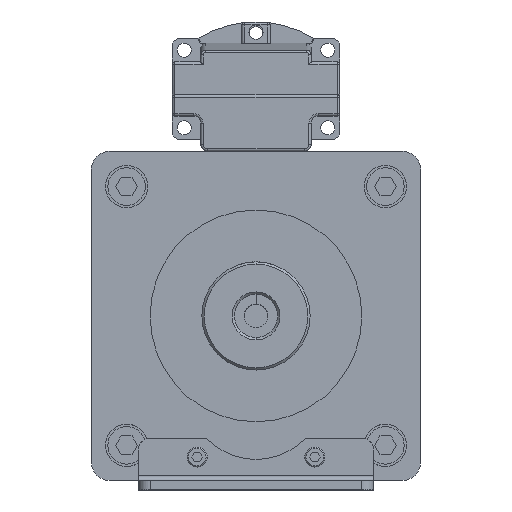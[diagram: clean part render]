
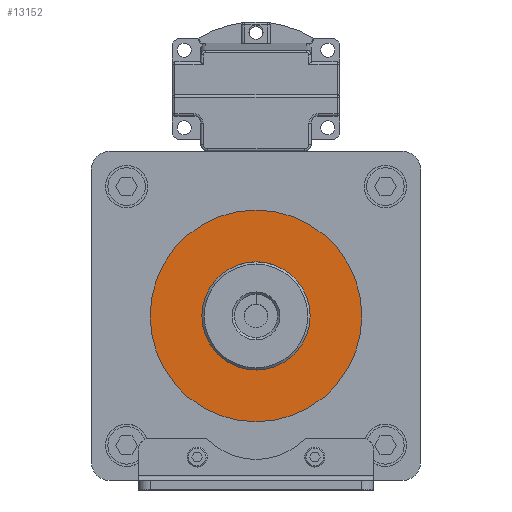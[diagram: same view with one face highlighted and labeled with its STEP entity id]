
A CAD part, front view. The second image highlights one B-rep face of the part: STEP entity #13152.
In plain terms, the highlighted planar face has unit normal (0, -1, 0).
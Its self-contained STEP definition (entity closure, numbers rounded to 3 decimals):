
#137 = VERTEX_POINT ( 'NONE', #3763 ) ;
#240 = PLANE ( 'NONE',  #6590 ) ;
#605 = DIRECTION ( 'NONE',  ( 0., 0., -1. ) ) ;
#1272 = ORIENTED_EDGE ( 'NONE', *, *, #5058, .F. ) ;
#1441 = EDGE_CURVE ( 'NONE', #6903, #137, #8048, .T. ) ;
#1472 = CARTESIAN_POINT ( 'NONE',  ( 0., -124.5, -25. ) ) ;
#2213 = AXIS2_PLACEMENT_3D ( 'NONE', #4425, #4300, #4141 ) ;
#2524 = DIRECTION ( 'NONE',  ( 0., -1., 0. ) ) ;
#2576 = CIRCLE ( 'NONE', #11885, 45. ) ;
#2600 = CARTESIAN_POINT ( 'NONE',  ( 0., -124.5, -93. ) ) ;
#3763 = CARTESIAN_POINT ( 'NONE',  ( 0., -124.5, -47. ) ) ;
#4141 = DIRECTION ( 'NONE',  ( 0., 0., -1. ) ) ;
#4300 = DIRECTION ( 'NONE',  ( 0., -1., 0. ) ) ;
#4425 = CARTESIAN_POINT ( 'NONE',  ( 0., -124.5, -70. ) ) ;
#4846 = EDGE_LOOP ( 'NONE', ( #11274, #1272 ) ) ;
#5058 = EDGE_CURVE ( 'NONE', #137, #6903, #11170, .T. ) ;
#5379 = DIRECTION ( 'NONE',  ( 0., -1., 0. ) ) ;
#5489 = CARTESIAN_POINT ( 'NONE',  ( 0., -124.5, -115. ) ) ;
#6321 = ORIENTED_EDGE ( 'NONE', *, *, #6465, .T. ) ;
#6465 = EDGE_CURVE ( 'NONE', #7504, #13417, #2576, .T. ) ;
#6590 = AXIS2_PLACEMENT_3D ( 'NONE', #12305, #2524, #10222 ) ;
#6903 = VERTEX_POINT ( 'NONE', #2600 ) ;
#7307 = DIRECTION ( 'NONE',  ( 0., -1., 0. ) ) ;
#7480 = AXIS2_PLACEMENT_3D ( 'NONE', #8469, #8449, #8369 ) ;
#7504 = VERTEX_POINT ( 'NONE', #1472 ) ;
#7526 = FACE_BOUND ( 'NONE', #4846, .T. ) ;
#8048 = CIRCLE ( 'NONE', #2213, 23. ) ;
#8369 = DIRECTION ( 'NONE',  ( 0., 0., -1. ) ) ;
#8405 = EDGE_CURVE ( 'NONE', #13417, #7504, #8877, .T. ) ;
#8449 = DIRECTION ( 'NONE',  ( 0., -1., 0. ) ) ;
#8469 = CARTESIAN_POINT ( 'NONE',  ( 0., -124.5, -70. ) ) ;
#8607 = AXIS2_PLACEMENT_3D ( 'NONE', #11863, #5379, #12950 ) ;
#8877 = CIRCLE ( 'NONE', #8607, 45. ) ;
#9861 = EDGE_LOOP ( 'NONE', ( #10414, #6321 ) ) ;
#10222 = DIRECTION ( 'NONE',  ( 0., 0., -1. ) ) ;
#10414 = ORIENTED_EDGE ( 'NONE', *, *, #8405, .T. ) ;
#11170 = CIRCLE ( 'NONE', #7480, 23. ) ;
#11274 = ORIENTED_EDGE ( 'NONE', *, *, #1441, .F. ) ;
#11863 = CARTESIAN_POINT ( 'NONE',  ( 0., -124.5, -70. ) ) ;
#11885 = AXIS2_PLACEMENT_3D ( 'NONE', #13756, #7307, #605 ) ;
#12305 = CARTESIAN_POINT ( 'NONE',  ( 0., -124.5, -115. ) ) ;
#12950 = DIRECTION ( 'NONE',  ( 0., 0., -1. ) ) ;
#13152 = ADVANCED_FACE ( 'NONE', ( #13259, #7526 ), #240, .T. ) ;
#13259 = FACE_OUTER_BOUND ( 'NONE', #9861, .T. ) ;
#13417 = VERTEX_POINT ( 'NONE', #5489 ) ;
#13756 = CARTESIAN_POINT ( 'NONE',  ( 0., -124.5, -70. ) ) ;
